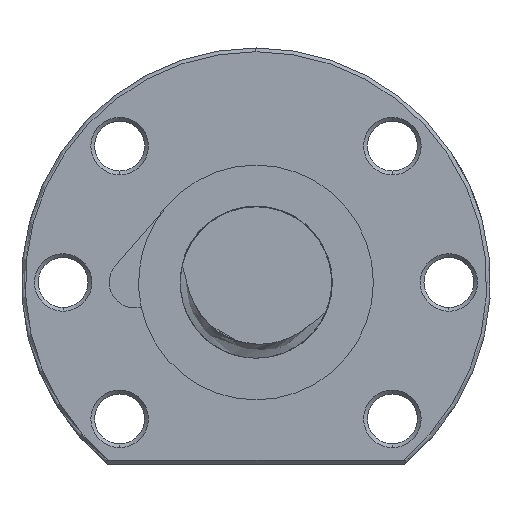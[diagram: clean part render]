
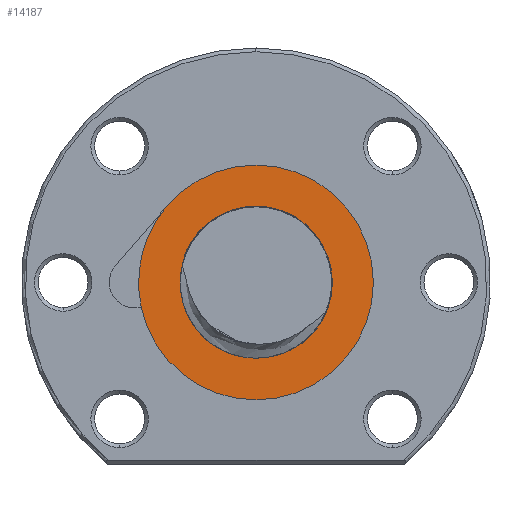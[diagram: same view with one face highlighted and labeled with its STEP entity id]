
A CAD part, left-side view. The second image highlights one B-rep face of the part: STEP entity #14187.
In plain terms, the highlighted planar face has unit normal (-1, 0, 0).
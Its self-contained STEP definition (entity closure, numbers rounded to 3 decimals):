
#6838 = CARTESIAN_POINT ( 'NONE',  ( -61.8, 15.17, -3.273 ) ) ;
#6839 = DIRECTION ( 'NONE',  ( 0., 0., 1. ) ) ;
#6840 = DIRECTION ( 'NONE',  ( -1., 0., 0. ) ) ;
#6841 = AXIS2_PLACEMENT_3D ( 'NONE', #6847, #6840, #6839 ) ;
#6842 = CIRCLE ( 'NONE', #6841, 15.519 ) ;
#6847 = CARTESIAN_POINT ( 'NONE',  ( -61.8, 0., 0. ) ) ;
#6878 = CARTESIAN_POINT ( 'NONE',  ( -61.8, 0., 15.519 ) ) ;
#6879 = CARTESIAN_POINT ( 'NONE',  ( -61.8, 0., -15.519 ) ) ;
#6880 = DIRECTION ( 'NONE',  ( 0., 0., 1. ) ) ;
#6881 = DIRECTION ( 'NONE',  ( -1., 0., 0. ) ) ;
#6882 = AXIS2_PLACEMENT_3D ( 'NONE', #6888, #6881, #6880 ) ;
#6883 = CIRCLE ( 'NONE', #6882, 15.519 ) ;
#6888 = CARTESIAN_POINT ( 'NONE',  ( -61.8, 0., 0. ) ) ;
#7018 = DIRECTION ( 'NONE',  ( 0., 0., 1. ) ) ;
#7035 = DIRECTION ( 'NONE',  ( -1., 0., 0. ) ) ;
#7036 = AXIS2_PLACEMENT_3D ( 'NONE', #7041, #7035, #7018 ) ;
#7037 = CIRCLE ( 'NONE', #7036, 10.1 ) ;
#7039 = CARTESIAN_POINT ( 'NONE',  ( -61.8, 9.448, 3.57 ) ) ;
#7041 = CARTESIAN_POINT ( 'NONE',  ( -61.8, 0., 0. ) ) ;
#7101 = CARTESIAN_POINT ( 'NONE',  ( -61.8, 11.759, 10.127 ) ) ;
#7102 = DIRECTION ( 'NONE',  ( 0., 0., 1. ) ) ;
#7103 = DIRECTION ( 'NONE',  ( -1., 0., 0. ) ) ;
#7104 = CARTESIAN_POINT ( 'NONE',  ( -61.8, 0., 0. ) ) ;
#7105 = CIRCLE ( 'NONE', #7156, 15.519 ) ;
#7156 = AXIS2_PLACEMENT_3D ( 'NONE', #7104, #7103, #7102 ) ;
#7478 = CARTESIAN_POINT ( 'NONE',  ( -61.8, 0., 10.1 ) ) ;
#7479 = DIRECTION ( 'NONE',  ( 0., 0., 1. ) ) ;
#7480 = DIRECTION ( 'NONE',  ( -1., 0., 0. ) ) ;
#7481 = AXIS2_PLACEMENT_3D ( 'NONE', #7501, #7480, #7479 ) ;
#7498 = CIRCLE ( 'NONE', #7481, 10.1 ) ;
#7499 = CARTESIAN_POINT ( 'NONE',  ( -61.8, -8.773, -5.004 ) ) ;
#7501 = CARTESIAN_POINT ( 'NONE',  ( -61.8, 0., 0. ) ) ;
#9747 = CARTESIAN_POINT ( 'NONE',  ( -61.8, 5.321, -6.188 ) ) ;
#9748 = CARTESIAN_POINT ( 'NONE',  ( -61.8, 5.739, -5.833 ) ) ;
#9749 = CARTESIAN_POINT ( 'NONE',  ( -61.8, 5.938, -5.647 ) ) ;
#9750 = CARTESIAN_POINT ( 'NONE',  ( -61.8, 6.51, -5.069 ) ) ;
#9751 = CARTESIAN_POINT ( 'NONE',  ( -61.8, 6.856, -4.654 ) ) ;
#9752 = CARTESIAN_POINT ( 'NONE',  ( -61.8, 7.324, -3.988 ) ) ;
#9753 = CARTESIAN_POINT ( 'NONE',  ( -61.8, 7.471, -3.759 ) ) ;
#9754 = CARTESIAN_POINT ( 'NONE',  ( -61.8, 7.748, -3.287 ) ) ;
#9755 = CARTESIAN_POINT ( 'NONE',  ( -61.8, 7.877, -3.043 ) ) ;
#9756 = CARTESIAN_POINT ( 'NONE',  ( -61.8, 8.235, -2.304 ) ) ;
#9757 = CARTESIAN_POINT ( 'NONE',  ( -61.8, 8.432, -1.796 ) ) ;
#9758 = CARTESIAN_POINT ( 'NONE',  ( -61.8, 8.755, -0.755 ) ) ;
#9759 = CARTESIAN_POINT ( 'NONE',  ( -61.8, 8.88, -0.218 ) ) ;
#9760 = CARTESIAN_POINT ( 'NONE',  ( -61.8, 9.068, 0.862 ) ) ;
#9761 = CARTESIAN_POINT ( 'NONE',  ( -61.8, 9.13, 1.407 ) ) ;
#9762 = CARTESIAN_POINT ( 'NONE',  ( -61.8, 9.212, 2.226 ) ) ;
#9763 = CARTESIAN_POINT ( 'NONE',  ( -61.8, 9.237, 2.499 ) ) ;
#9764 = CARTESIAN_POINT ( 'NONE',  ( -61.8, 9.29, 2.907 ) ) ;
#9765 = CARTESIAN_POINT ( 'NONE',  ( -61.8, 9.31, 3.043 ) ) ;
#9766 = CARTESIAN_POINT ( 'NONE',  ( -61.8, 9.364, 3.31 ) ) ;
#9767 = CARTESIAN_POINT ( 'NONE',  ( -61.8, 9.396, 3.443 ) ) ;
#9768 = CARTESIAN_POINT ( 'NONE',  ( -61.8, 9.448, 3.57 ) ) ;
#9769 = B_SPLINE_CURVE_WITH_KNOTS ( 'NONE', 3,
 ( #9768, #9767, #9766, #9765, #9764, #9763, #9762, #9761, #9760, #9759, #9758, #9757, #9756, #9755, #9754, #9753, #9752, #9751, #9750, #9749, #9748, #9747, #9880, #9879, #9878, #9877, #9876, #9875, #9874, #9873, #9872, #9871, #9870, #9869, #9868, #9867, #9866, #9865, #9864, #9863, #9862, #9827, #9826, #9825, #9824, #9823, #9822, #9821 ),
 .UNSPECIFIED., .F., .F.,
 ( 4, 2, 2, 2, 2, 2, 2, 2, 2, 2, 2, 2, 2, 2, 2, 2, 2, 2, 2, 2, 2, 2, 2, 4 ),
 ( 0.039, 0.04, 0.04, 0.041, 0.043, 0.044, 0.046, 0.047, 0.048, 0.049, 0.05, 0.051, 0.053, 0.053, 0.054, 0.056, 0.057, 0.059, 0.061, 0.062, 0.064, 0.065, 0.065, 0.066 ),
 .UNSPECIFIED. ) ;
#9770 = CARTESIAN_POINT ( 'NONE',  ( -61.8, 0., 0. ) ) ;
#9816 = DIRECTION ( 'NONE',  ( 0., 0., 1. ) ) ;
#9817 = DIRECTION ( 'NONE',  ( -1., 0., 0. ) ) ;
#9818 = AXIS2_PLACEMENT_3D ( 'NONE', #9770, #9817, #9816 ) ;
#9819 = CIRCLE ( 'NONE', #9818, 15.519 ) ;
#9821 = CARTESIAN_POINT ( 'NONE',  ( -61.8, -8.773, -5.004 ) ) ;
#9822 = CARTESIAN_POINT ( 'NONE',  ( -61.8, -8.639, -5.046 ) ) ;
#9823 = CARTESIAN_POINT ( 'NONE',  ( -61.8, -8.514, -5.107 ) ) ;
#9824 = CARTESIAN_POINT ( 'NONE',  ( -61.8, -8.272, -5.238 ) ) ;
#9825 = CARTESIAN_POINT ( 'NONE',  ( -61.8, -8.155, -5.309 ) ) ;
#9826 = CARTESIAN_POINT ( 'NONE',  ( -61.8, -7.806, -5.529 ) ) ;
#9827 = CARTESIAN_POINT ( 'NONE',  ( -61.8, -7.579, -5.685 ) ) ;
#9862 = CARTESIAN_POINT ( 'NONE',  ( -61.8, -6.895, -6.144 ) ) ;
#9863 = CARTESIAN_POINT ( 'NONE',  ( -61.8, -6.433, -6.445 ) ) ;
#9864 = CARTESIAN_POINT ( 'NONE',  ( -61.8, -5.482, -6.987 ) ) ;
#9865 = CARTESIAN_POINT ( 'NONE',  ( -61.8, -4.992, -7.23 ) ) ;
#9866 = CARTESIAN_POINT ( 'NONE',  ( -61.8, -3.981, -7.646 ) ) ;
#9867 = CARTESIAN_POINT ( 'NONE',  ( -61.8, -3.455, -7.819 ) ) ;
#9868 = CARTESIAN_POINT ( 'NONE',  ( -61.8, -2.395, -8.078 ) ) ;
#9869 = CARTESIAN_POINT ( 'NONE',  ( -61.8, -1.858, -8.165 ) ) ;
#9870 = CARTESIAN_POINT ( 'NONE',  ( -61.8, -0.768, -8.25 ) ) ;
#9871 = CARTESIAN_POINT ( 'NONE',  ( -61.8, -0.214, -8.247 ) ) ;
#9872 = CARTESIAN_POINT ( 'NONE',  ( -61.8, 0.872, -8.146 ) ) ;
#9873 = CARTESIAN_POINT ( 'NONE',  ( -61.8, 1.407, -8.05 ) ) ;
#9874 = CARTESIAN_POINT ( 'NONE',  ( -61.8, 2.198, -7.835 ) ) ;
#9875 = CARTESIAN_POINT ( 'NONE',  ( -61.8, 2.461, -7.751 ) ) ;
#9876 = CARTESIAN_POINT ( 'NONE',  ( -61.8, 2.976, -7.561 ) ) ;
#9877 = CARTESIAN_POINT ( 'NONE',  ( -61.8, 3.228, -7.455 ) ) ;
#9878 = CARTESIAN_POINT ( 'NONE',  ( -61.8, 3.965, -7.106 ) ) ;
#9879 = CARTESIAN_POINT ( 'NONE',  ( -61.8, 4.434, -6.832 ) ) ;
#9880 = CARTESIAN_POINT ( 'NONE',  ( -61.8, 5.102, -6.358 ) ) ;
#10318 = DIRECTION ( 'NONE',  ( 0., 0., 1. ) ) ;
#10319 = DIRECTION ( 'NONE',  ( -1., 0., 0. ) ) ;
#10320 = CARTESIAN_POINT ( 'NONE',  ( -61.8, 0., 10.1 ) ) ;
#10333 = AXIS2_PLACEMENT_3D ( 'NONE', #10320, #10319, #10318 ) ;
#10334 = PLANE ( 'NONE',  #10333 ) ;
#10335 = FACE_BOUND ( 'NONE', #13749, .T. ) ;
#10337 = FACE_OUTER_BOUND ( 'NONE', #13759, .T. ) ;
#13103 = EDGE_CURVE ( 'NONE', #13105, #13262, #6842, .T. ) ;
#13105 = VERTEX_POINT ( 'NONE', #6838 ) ;
#13135 = VERTEX_POINT ( 'NONE', #7039 ) ;
#13142 = EDGE_CURVE ( 'NONE', #13542, #13135, #7037, .T. ) ;
#13260 = EDGE_CURVE ( 'NONE', #13262, #13264, #6883, .T. ) ;
#13262 = VERTEX_POINT ( 'NONE', #6879 ) ;
#13264 = VERTEX_POINT ( 'NONE', #6878 ) ;
#13289 = EDGE_CURVE ( 'NONE', #13264, #13291, #7105, .T. ) ;
#13291 = VERTEX_POINT ( 'NONE', #7101 ) ;
#13535 = VERTEX_POINT ( 'NONE', #7499 ) ;
#13539 = EDGE_CURVE ( 'NONE', #13535, #13542, #7498, .T. ) ;
#13542 = VERTEX_POINT ( 'NONE', #7478 ) ;
#13726 = ORIENTED_EDGE ( 'NONE', *, *, #13103, .T. ) ;
#13728 = ORIENTED_EDGE ( 'NONE', *, *, #13260, .T. ) ;
#13730 = ORIENTED_EDGE ( 'NONE', *, *, #13289, .T. ) ;
#13749 = EDGE_LOOP ( 'NONE', ( #13750, #13752, #13756 ) ) ;
#13750 = ORIENTED_EDGE ( 'NONE', *, *, #13539, .F. ) ;
#13752 = ORIENTED_EDGE ( 'NONE', *, *, #13754, .F. ) ;
#13754 = EDGE_CURVE ( 'NONE', #13135, #13535, #9769, .T. ) ;
#13756 = ORIENTED_EDGE ( 'NONE', *, *, #13142, .F. ) ;
#13759 = EDGE_LOOP ( 'NONE', ( #13761, #13726, #13728, #13730 ) ) ;
#13761 = ORIENTED_EDGE ( 'NONE', *, *, #13762, .T. ) ;
#13762 = EDGE_CURVE ( 'NONE', #13291, #13105, #9819, .T. ) ;
#14187 = ADVANCED_FACE ( 'NONE', ( #10335, #10337 ), #10334, .T. ) ;
